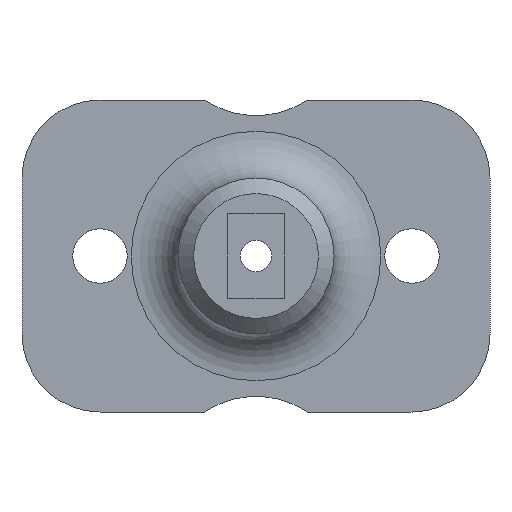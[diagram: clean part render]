
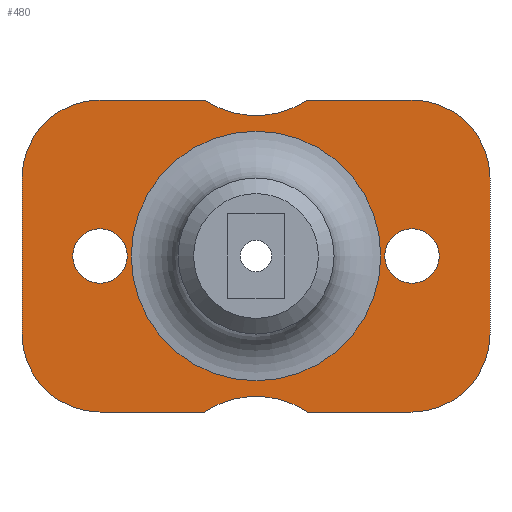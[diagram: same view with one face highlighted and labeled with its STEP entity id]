
A CAD part, front view. The second image highlights one B-rep face of the part: STEP entity #480.
In plain terms, the highlighted planar face has unit normal (0, -1, 0).
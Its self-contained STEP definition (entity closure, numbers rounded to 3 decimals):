
#17=FACE_BOUND('',#85,.T.);
#18=FACE_BOUND('',#86,.T.);
#19=FACE_BOUND('',#87,.T.);
#26=PLANE('',#528);
#55=FACE_OUTER_BOUND('',#84,.T.);
#84=EDGE_LOOP('',(#358,#359,#360,#361,#362,#363,#364,#365,#366,#367,#368,
#369));
#85=EDGE_LOOP('',(#370));
#86=EDGE_LOOP('',(#371));
#87=EDGE_LOOP('',(#372));
#122=LINE('',#755,#164);
#123=LINE('',#759,#165);
#124=LINE('',#763,#166);
#125=LINE('',#767,#167);
#126=LINE('',#771,#168);
#127=LINE('',#774,#169);
#164=VECTOR('',#604,10.);
#165=VECTOR('',#607,10.);
#166=VECTOR('',#610,10.);
#167=VECTOR('',#613,10.);
#168=VECTOR('',#616,10.);
#169=VECTOR('',#619,10.);
#205=CIRCLE('',#527,8.);
#206=CIRCLE('',#529,5.);
#207=CIRCLE('',#530,6.);
#208=CIRCLE('',#531,5.);
#209=CIRCLE('',#532,5.);
#210=CIRCLE('',#533,6.);
#211=CIRCLE('',#534,5.);
#212=CIRCLE('',#535,1.75);
#213=CIRCLE('',#536,1.75);
#234=VERTEX_POINT('',#747);
#235=VERTEX_POINT('',#751);
#236=VERTEX_POINT('',#752);
#237=VERTEX_POINT('',#754);
#238=VERTEX_POINT('',#756);
#239=VERTEX_POINT('',#758);
#240=VERTEX_POINT('',#760);
#241=VERTEX_POINT('',#762);
#242=VERTEX_POINT('',#764);
#243=VERTEX_POINT('',#766);
#244=VERTEX_POINT('',#768);
#245=VERTEX_POINT('',#770);
#246=VERTEX_POINT('',#772);
#247=VERTEX_POINT('',#775);
#248=VERTEX_POINT('',#777);
#282=EDGE_CURVE('',#234,#234,#205,.T.);
#283=EDGE_CURVE('',#235,#236,#206,.T.);
#284=EDGE_CURVE('',#237,#235,#122,.T.);
#285=EDGE_CURVE('',#237,#238,#207,.T.);
#286=EDGE_CURVE('',#239,#238,#123,.T.);
#287=EDGE_CURVE('',#240,#239,#208,.T.);
#288=EDGE_CURVE('',#241,#240,#124,.T.);
#289=EDGE_CURVE('',#242,#241,#209,.T.);
#290=EDGE_CURVE('',#243,#242,#125,.T.);
#291=EDGE_CURVE('',#243,#244,#210,.T.);
#292=EDGE_CURVE('',#245,#244,#126,.T.);
#293=EDGE_CURVE('',#246,#245,#211,.T.);
#294=EDGE_CURVE('',#236,#246,#127,.T.);
#295=EDGE_CURVE('',#247,#247,#212,.T.);
#296=EDGE_CURVE('',#248,#248,#213,.T.);
#358=ORIENTED_EDGE('',*,*,#283,.F.);
#359=ORIENTED_EDGE('',*,*,#284,.F.);
#360=ORIENTED_EDGE('',*,*,#285,.T.);
#361=ORIENTED_EDGE('',*,*,#286,.F.);
#362=ORIENTED_EDGE('',*,*,#287,.F.);
#363=ORIENTED_EDGE('',*,*,#288,.F.);
#364=ORIENTED_EDGE('',*,*,#289,.F.);
#365=ORIENTED_EDGE('',*,*,#290,.F.);
#366=ORIENTED_EDGE('',*,*,#291,.T.);
#367=ORIENTED_EDGE('',*,*,#292,.F.);
#368=ORIENTED_EDGE('',*,*,#293,.F.);
#369=ORIENTED_EDGE('',*,*,#294,.F.);
#370=ORIENTED_EDGE('',*,*,#295,.T.);
#371=ORIENTED_EDGE('',*,*,#296,.T.);
#372=ORIENTED_EDGE('',*,*,#282,.F.);
#480=ADVANCED_FACE('',(#55,#17,#18,#19),#26,.F.);
#527=AXIS2_PLACEMENT_3D('',#749,#598,#599);
#528=AXIS2_PLACEMENT_3D('',#750,#600,#601);
#529=AXIS2_PLACEMENT_3D('',#753,#602,#603);
#530=AXIS2_PLACEMENT_3D('',#757,#605,#606);
#531=AXIS2_PLACEMENT_3D('',#761,#608,#609);
#532=AXIS2_PLACEMENT_3D('',#765,#611,#612);
#533=AXIS2_PLACEMENT_3D('',#769,#614,#615);
#534=AXIS2_PLACEMENT_3D('',#773,#617,#618);
#535=AXIS2_PLACEMENT_3D('',#776,#620,#621);
#536=AXIS2_PLACEMENT_3D('',#778,#622,#623);
#598=DIRECTION('center_axis',(0.,-1.,0.));
#599=DIRECTION('ref_axis',(1.,0.,0.));
#600=DIRECTION('center_axis',(0.,1.,0.));
#601=DIRECTION('ref_axis',(-1.,0.,0.));
#602=DIRECTION('center_axis',(0.,1.,0.));
#603=DIRECTION('ref_axis',(0.707,0.,0.707));
#604=DIRECTION('',(1.,0.,0.));
#605=DIRECTION('center_axis',(0.,1.,0.));
#606=DIRECTION('ref_axis',(-1.,0.,0.));
#607=DIRECTION('',(1.,0.,0.));
#608=DIRECTION('center_axis',(0.,1.,0.));
#609=DIRECTION('ref_axis',(-0.707,0.,0.707));
#610=DIRECTION('',(0.,0.,1.));
#611=DIRECTION('center_axis',(0.,1.,0.));
#612=DIRECTION('ref_axis',(-0.707,0.,-0.707));
#613=DIRECTION('',(-1.,0.,0.));
#614=DIRECTION('center_axis',(0.,1.,0.));
#615=DIRECTION('ref_axis',(-1.,0.,0.));
#616=DIRECTION('',(-1.,0.,0.));
#617=DIRECTION('center_axis',(0.,1.,0.));
#618=DIRECTION('ref_axis',(0.707,0.,-0.707));
#619=DIRECTION('',(0.,0.,-1.));
#620=DIRECTION('center_axis',(0.,1.,0.));
#621=DIRECTION('ref_axis',(-1.,0.,0.));
#622=DIRECTION('center_axis',(0.,1.,0.));
#623=DIRECTION('ref_axis',(-1.,0.,0.));
#747=CARTESIAN_POINT('',(0.,10.,-8.));
#749=CARTESIAN_POINT('Origin',(0.,10.,0.));
#750=CARTESIAN_POINT('Origin',(0.,10.,0.));
#751=CARTESIAN_POINT('',(10.,10.,10.));
#752=CARTESIAN_POINT('',(15.,10.,5.));
#753=CARTESIAN_POINT('Origin',(10.,10.,5.));
#754=CARTESIAN_POINT('',(3.317,10.,10.));
#755=CARTESIAN_POINT('',(-15.,10.,10.));
#756=CARTESIAN_POINT('',(-3.317,10.,10.));
#757=CARTESIAN_POINT('Origin',(0.,10.,15.));
#758=CARTESIAN_POINT('',(-10.,10.,10.));
#759=CARTESIAN_POINT('',(-15.,10.,10.));
#760=CARTESIAN_POINT('',(-15.,10.,5.));
#761=CARTESIAN_POINT('Origin',(-10.,10.,5.));
#762=CARTESIAN_POINT('',(-15.,10.,-5.));
#763=CARTESIAN_POINT('',(-15.,10.,-10.));
#764=CARTESIAN_POINT('',(-10.,10.,-10.));
#765=CARTESIAN_POINT('Origin',(-10.,10.,-5.));
#766=CARTESIAN_POINT('',(-3.317,10.,-10.));
#767=CARTESIAN_POINT('',(15.,10.,-10.));
#768=CARTESIAN_POINT('',(3.317,10.,-10.));
#769=CARTESIAN_POINT('Origin',(0.,10.,-15.));
#770=CARTESIAN_POINT('',(10.,10.,-10.));
#771=CARTESIAN_POINT('',(15.,10.,-10.));
#772=CARTESIAN_POINT('',(15.,10.,-5.));
#773=CARTESIAN_POINT('Origin',(10.,10.,-5.));
#774=CARTESIAN_POINT('',(15.,10.,10.));
#775=CARTESIAN_POINT('',(11.75,10.,0.));
#776=CARTESIAN_POINT('Origin',(10.,10.,0.));
#777=CARTESIAN_POINT('',(-8.25,10.,0.));
#778=CARTESIAN_POINT('Origin',(-10.,10.,0.));
